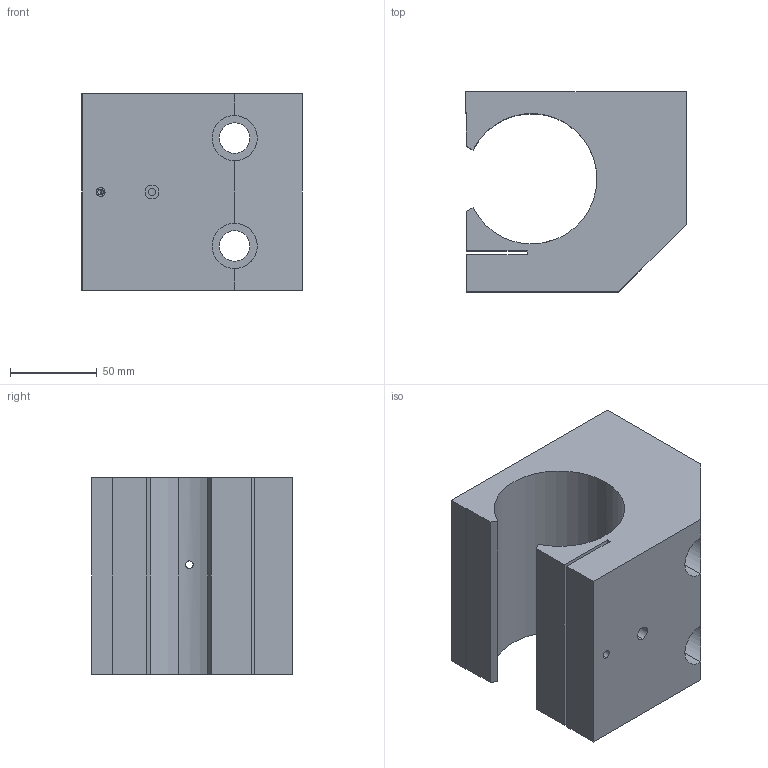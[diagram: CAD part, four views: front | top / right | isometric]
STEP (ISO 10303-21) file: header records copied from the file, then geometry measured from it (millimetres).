
FILE_DESCRIPTION (( 'STEP AP214' ), '1' );
FILE_NAME ('KGSE72-50.step', '2020-03-04T13:24:43', ( '' ), ( '' ), 'SwSTEP 2.0', 'SolidWorks 2019', '' );
FILE_SCHEMA (( 'AUTOMOTIVE_DESIGN' ));
Length unit declared in the file: millimetre
Products named in the file (1): KGSE72-50
Bounding box: 127 x 115 x 113 mm (x, y, z)
Volume: 968712 mm3; surface area: 112492.5 mm2
Topology: 1 solids, 1 shells, 43 faces, 114 edges, 73 vertices
Faces by surface type: cylinder 20, plane 19, cone 4
Entity records: 1600 total; most frequent: CARTESIAN_POINT 355, DIRECTION 232, ORIENTED_EDGE 224, EDGE_CURVE 112, AXIS2_PLACEMENT_3D 82, VERTEX_POINT 73, LINE 68, VECTOR 68
